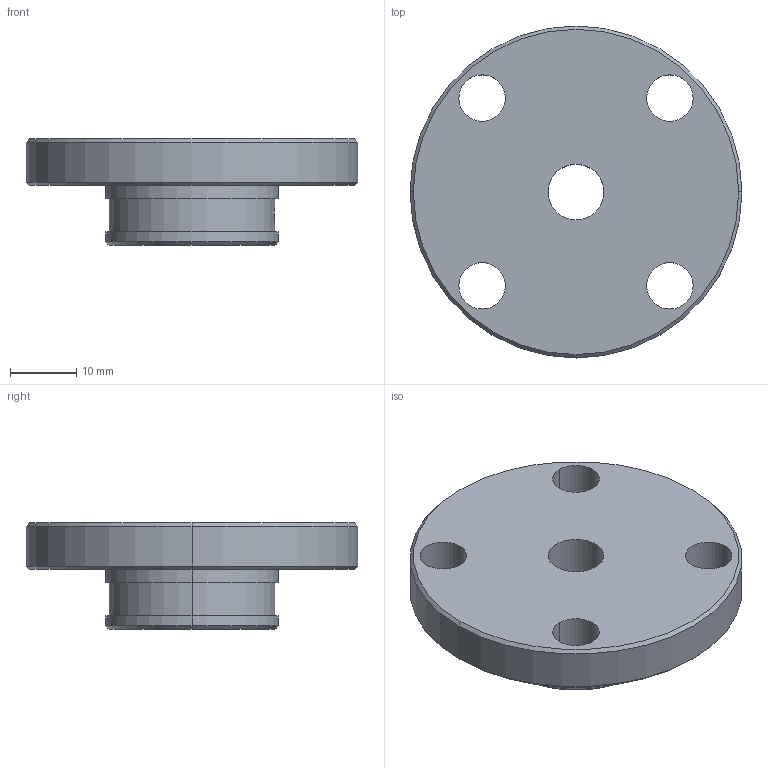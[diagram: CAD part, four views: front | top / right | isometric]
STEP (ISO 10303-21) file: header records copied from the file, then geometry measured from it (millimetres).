
FILE_DESCRIPTION (( 'STEP AP203' ), '1' );
FILE_NAME ('MJ0-FP.STEP', '2024-01-05T11:16:15', ( '' ), ( '' ), 'SwSTEP 2.0', 'SolidWorks 2022', '' );
FILE_SCHEMA (( 'CONFIG_CONTROL_DESIGN' ));
Length unit declared in the file: millimetre
Products named in the file (1): MJ0-FP
Bounding box: 50 x 50 x 16 mm (x, y, z)
Volume: 16243.9 mm3; surface area: 6396.6 mm2
Topology: 1 solids, 1 shells, 31 faces, 78 edges, 50 vertices
Faces by surface type: cylinder 20, cone 6, plane 5
Entity records: 1199 total; most frequent: CARTESIAN_POINT 328, DIRECTION 176, ORIENTED_EDGE 156, EDGE_CURVE 78, AXIS2_PLACEMENT_3D 74, VERTEX_POINT 50, EDGE_LOOP 44, CIRCLE 42
